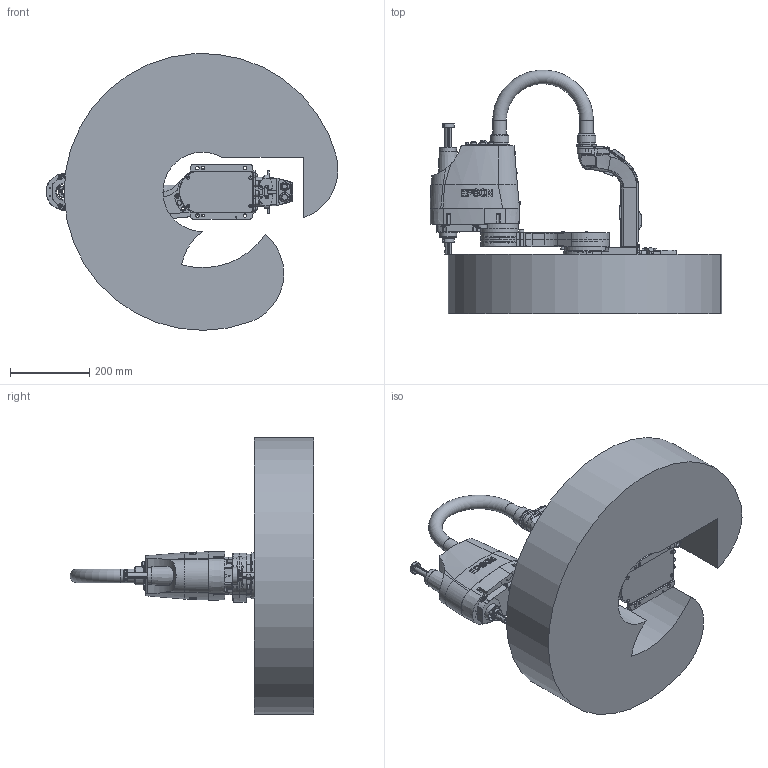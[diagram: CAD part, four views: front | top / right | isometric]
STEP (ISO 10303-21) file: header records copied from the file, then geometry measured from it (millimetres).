
FILE_DESCRIPTION( ( 'STEP AP214' ), '1' );
FILE_NAME( 'C:/Users/9607552/Desktop/GX4-A/GX4-A351S-RA-W.stp', '2023-04-07T04:52:44', ( '' ), ( '' ), ' ', 'PARTsolutions', ' ' );
FILE_SCHEMA( ( 'AUTOMOTIVE_DESIGN { 1 0 10303 214 1 1 1 1 }' ) );
Length unit declared in the file: millimetre
Products named in the file (8): GX4-A351S-RA-W; _A251S-b; _A351S-R_J1_ARM; _A251S-a; _A351S_CONDUIT; _A251S; _Angle; _GX4-33_WS
Assembly tree (7 placements, depth 2):
  GX4-A351S-RA-W
    _A251S-b
    _A351S-R_J1_ARM
    _A251S-a
    _A351S_CONDUIT
    _A251S
    _Angle
    _GX4-33_WS
Bounding box: 737.83 x 615.58 x 699.31 mm (x, y, z)
Volume: 51047135.4 mm3; surface area: 1784370.8 mm2
Topology: 7 solids, 7 shells, 3920 faces, 9610 edges, 6249 vertices
Faces by surface type: plane 2291, cylinder 1120, cone 321, torus 95, bspline 90, sphere 3
Full cylindrical faces by diameter (mm): 1 x30, 1.13 x55, 1.18 x55, 2.459 x4, 2.5 x19, 2.99 x1, 3 x35, 3.2 x4, 3.242 x1, 3.3 x44, 3.4 x32, 3.5 x12, 4 x2, 4.5 x24, 4.8 x8, 4.917 x2, 5 x1, 5.34 x8, 5.4 x14, 5.5 x26, 5.6 x4, 5.68 x4, 5.9 x4, 5.999 x8, 6 x9, 6.7 x4, 6.8 x7, 7 x44, 7.1 x4, 7.8 x4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
Entity records: 147440 total; most frequent: CARTESIAN_POINT 28259, DIRECTION 17406, ORIENTED_EDGE 17358, EDGE_CURVE 8679, AXIS2_PLACEMENT_3D 6595, VERTEX_POINT 6155, EDGE_LOOP 5364, FACE_OUTER_BOUND 4568
